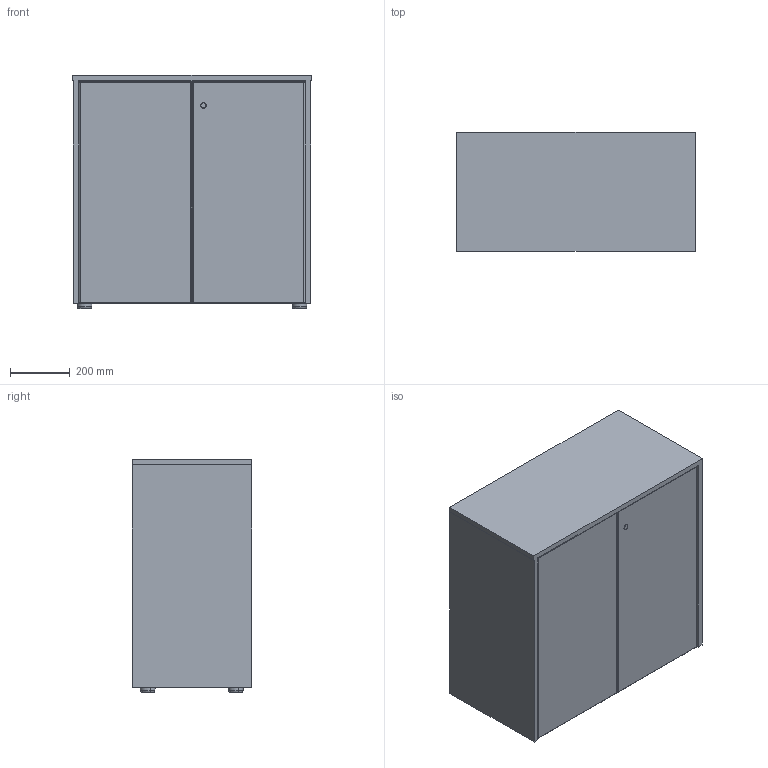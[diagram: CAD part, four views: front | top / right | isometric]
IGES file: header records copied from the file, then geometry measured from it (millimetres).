
Start section: SolidWorks IGES file using analytic representation for surfaces
Global section: file name: C:\Documents and Settings\mbiesiadecki\Moje dokumenty\MEBLE\SYSTEMY BIUROWE\6 VANCOUVER\VANCOUVER - Piktogramy\Vri-pikt-NT\Vr 28bdr-t01\Vr-28bdr-t01.IGS; native system: SolidWorks 2011; preprocessor: SolidWorks 2011; author: mbiesiadecki; date: 110923.152946; units: millimetre
Bounding box: 801 x 400 x 783 mm (x, y, z)
Volume: 40871580.5 mm3; surface area: 4789545.5 mm2
Topology: 4 solids, 4 shells, 98 faces, 224 edges, 140 vertices
Faces by surface type: plane 58, revolution 40
